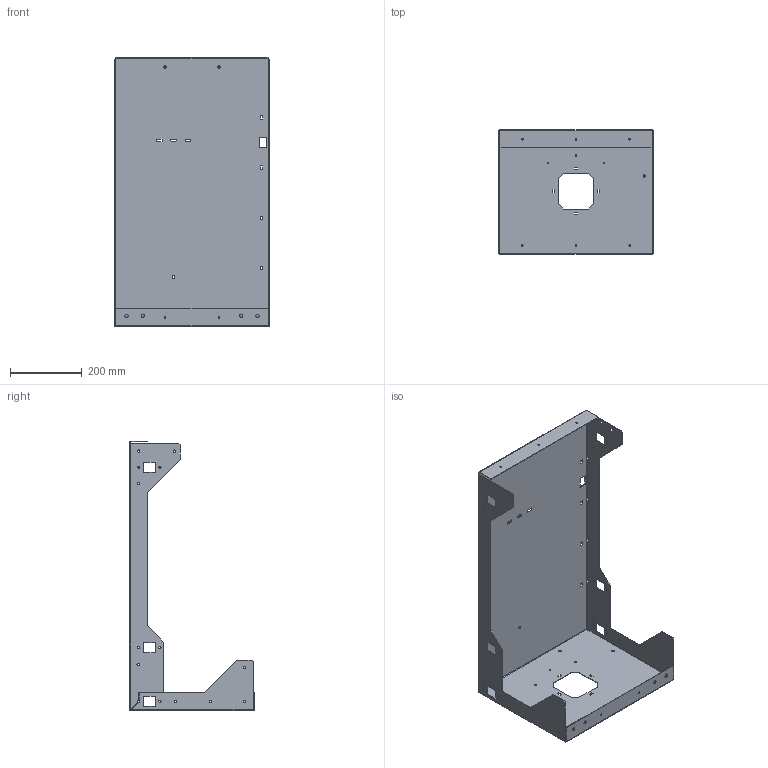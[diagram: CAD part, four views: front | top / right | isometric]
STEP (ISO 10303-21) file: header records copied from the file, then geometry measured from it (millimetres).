
FILE_DESCRIPTION (( 'STEP AP203' ), '1' );
FILE_NAME ('庋.803-5-20.0.0.1.STEP', '2021-03-06T15:47:38', ( '' ), ( '' ), 'SwSTEP 2.0', 'SolidWorks 2016', '' );
FILE_SCHEMA (( 'CONFIG_CONTROL_DESIGN' ));
Length unit declared in the file: millimetre
Products named in the file (1): 庋.803-5-20.0.0.1
Bounding box: 430 x 346.5 x 750 mm (x, y, z)
Volume: 957024.9 mm3; surface area: 1286397.4 mm2
Topology: 1 solids, 1 shells, 318 faces, 884 edges, 560 vertices
Faces by surface type: plane 194, cylinder 124
Entity records: 10457 total; most frequent: DIRECTION 1770, ORIENTED_EDGE 1768, CARTESIAN_POINT 1763, EDGE_CURVE 884, LINE 636, VECTOR 636, AXIS2_PLACEMENT_3D 567, VERTEX_POINT 560
